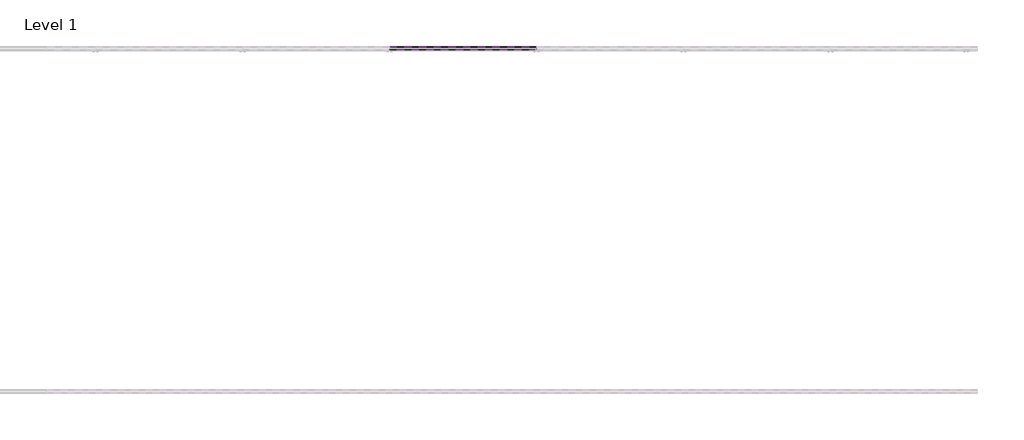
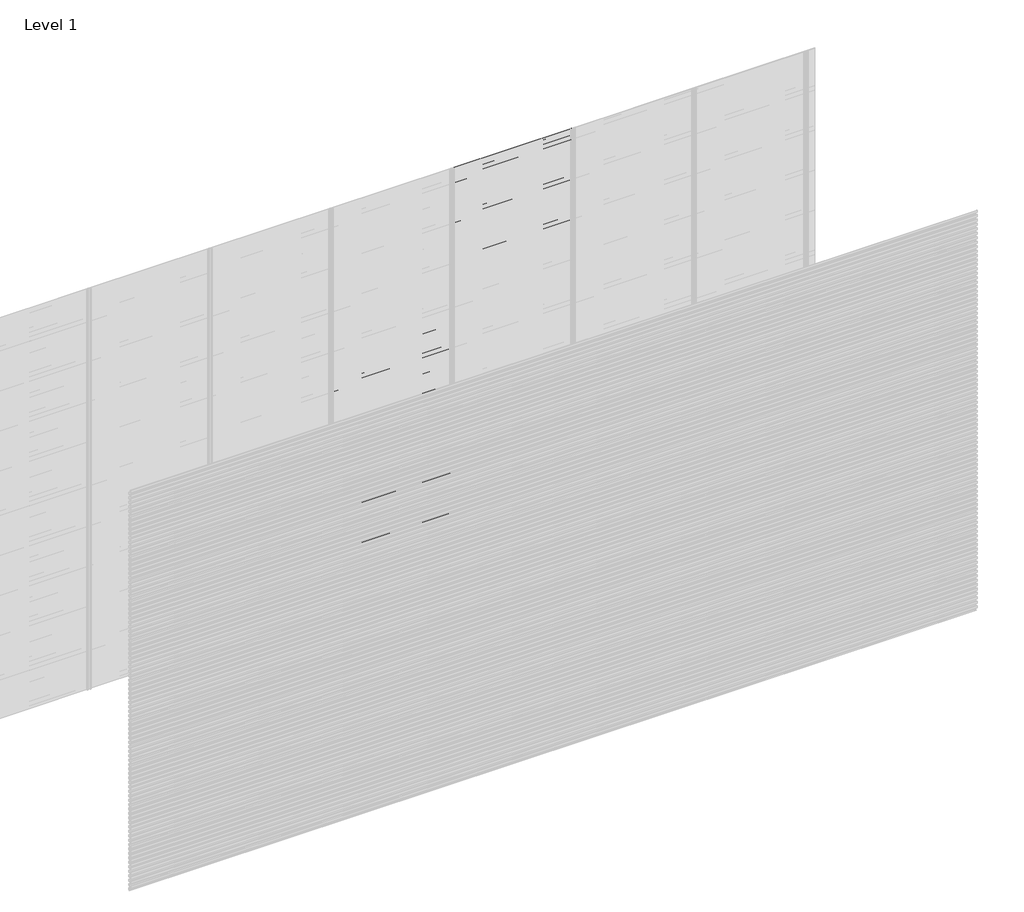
# One storey, part 93 of 96: 82 proxies.
"""IFC4 building model written with IfcOpenShell, lengths in millimetres."""

from ifc_helpers import new_model, si_unit, frame, origin, place, context, project, spatial, polyline, outline, extrude, element, save

model = new_model("IFC4")

# Units and contexts
model_context = context("Model", 3, world=origin())
ifc_project = project(units=[si_unit("LENGTHUNIT", "METRE", prefix="MILLI")], contexts=[model_context])

# Site, building, storey
site = spatial("IfcSite", under=ifc_project)
building = spatial("IfcBuilding", under=site)
storey = spatial("IfcBuildingStorey", under=building, Name="Level 1", Elevation=0.0)

# Proxies
placement = place(None, origin())
element("IfcBuildingElementProxy", 1, Name="Wall Sweeps", at=placement, inside=storey, context=model_context, shape_type="SweptSolid", body=[
    extrude(outline(polyline([(22.4, 1839.5655033), (22.4, 1825.2779188), (17.5885035, 1822.5), (17.5885035, 1823.7701706), (21.15, 1825.8264016), (21.15, 1838.8437382), (2.0, 1849.9000799), (2.0, 1864.8), (3.25, 1864.8), (3.25, 1850.6217609), (22.4, 1839.5655033)])), frame((2571.4285714, 0.0, 0.0), z_axis=(1.0, 0.0, 0.0), x_axis=(0.0, 1.0, 0.0)), (0.0, 0.0, 1.0), 857.1428571),
])
element("IfcBuildingElementProxy", 2, Name="Wall Sweeps", at=placement, inside=storey, context=model_context, shape_type="SweptSolid", body=[
    extrude(outline(polyline([(22.4, 1806.2655033), (22.4, 1791.9779188), (17.5885035, 1789.2), (17.5885035, 1790.4701706), (21.15, 1792.5264016), (21.15, 1805.5437382), (2.0, 1816.6000799), (2.0, 1831.5), (3.25, 1831.5), (3.25, 1817.3217609), (22.4, 1806.2655033)])), frame((2571.4285714, 0.0, 0.0), z_axis=(1.0, 0.0, 0.0), x_axis=(0.0, 1.0, 0.0)), (0.0, 0.0, 1.0), 857.1428571),
])
element("IfcBuildingElementProxy", 3, Name="Wall Sweeps", at=placement, inside=storey, context=model_context, shape_type="SweptSolid", body=[
    extrude(outline(polyline([(22.4, 1772.9655033), (22.4, 1758.6779188), (17.5885035, 1755.9), (17.5885035, 1757.1701706), (21.15, 1759.2264016), (21.15, 1772.2437382), (2.0, 1783.3000799), (2.0, 1798.2), (3.25, 1798.2), (3.25, 1784.0217609), (22.4, 1772.9655033)])), frame((2571.4285714, 0.0, 0.0), z_axis=(1.0, 0.0, 0.0), x_axis=(0.0, 1.0, 0.0)), (0.0, 0.0, 1.0), 857.1428571),
])
element("IfcBuildingElementProxy", 4, Name="Wall Sweeps", at=placement, inside=storey, context=model_context, shape_type="SweptSolid", body=[
    extrude(outline(polyline([(22.4, 1739.6655033), (22.4, 1725.3779188), (17.5885035, 1722.6), (17.5885035, 1723.8701706), (21.15, 1725.9264016), (21.15, 1738.9437382), (2.0, 1750.0000799), (2.0, 1764.9), (3.25, 1764.9), (3.25, 1750.7217609), (22.4, 1739.6655033)])), frame((2571.4285714, 0.0, 0.0), z_axis=(1.0, 0.0, 0.0), x_axis=(0.0, 1.0, 0.0)), (0.0, 0.0, 1.0), 857.1428571),
])
element("IfcBuildingElementProxy", 5, Name="Wall Sweeps", at=placement, inside=storey, context=model_context, shape_type="SweptSolid", body=[
    extrude(outline(polyline([(22.4, 1706.3655033), (22.4, 1692.0779188), (17.5885035, 1689.3), (17.5885035, 1690.5701706), (21.15, 1692.6264016), (21.15, 1705.6437382), (2.0, 1716.7000799), (2.0, 1731.6), (3.25, 1731.6), (3.25, 1717.4217609), (22.4, 1706.3655033)])), frame((2571.4285714, 0.0, 0.0), z_axis=(1.0, 0.0, 0.0), x_axis=(0.0, 1.0, 0.0)), (0.0, 0.0, 1.0), 857.1428571),
])
element("IfcBuildingElementProxy", 6, Name="Wall Sweeps", at=placement, inside=storey, context=model_context, shape_type="SweptSolid", body=[
    extrude(outline(polyline([(22.4, 1673.0655033), (22.4, 1658.7779188), (17.5885035, 1656.0), (17.5885035, 1657.2701706), (21.15, 1659.3264016), (21.15, 1672.3437382), (2.0, 1683.4000799), (2.0, 1698.3), (3.25, 1698.3), (3.25, 1684.1217609), (22.4, 1673.0655033)])), frame((2571.4285714, 0.0, 0.0), z_axis=(1.0, 0.0, 0.0), x_axis=(0.0, 1.0, 0.0)), (0.0, 0.0, 1.0), 857.1428571),
])
element("IfcBuildingElementProxy", 7, Name="Wall Sweeps", at=placement, inside=storey, context=model_context, shape_type="SweptSolid", body=[
    extrude(outline(polyline([(22.4, 1639.7655033), (22.4, 1625.4779188), (17.5885035, 1622.7), (17.5885035, 1623.9701706), (21.15, 1626.0264016), (21.15, 1639.0437382), (2.0, 1650.1000799), (2.0, 1665.0), (3.25, 1665.0), (3.25, 1650.8217609), (22.4, 1639.7655033)])), frame((2571.4285714, 0.0, 0.0), z_axis=(1.0, 0.0, 0.0), x_axis=(0.0, 1.0, 0.0)), (0.0, 0.0, 1.0), 857.1428571),
])
element("IfcBuildingElementProxy", 8, Name="Wall Sweeps", at=placement, inside=storey, context=model_context, shape_type="SweptSolid", body=[
    extrude(outline(polyline([(22.4, 1606.4655033), (22.4, 1592.1779188), (17.5885035, 1589.4), (17.5885035, 1590.6701706), (21.15, 1592.7264016), (21.15, 1605.7437382), (2.0, 1616.8000799), (2.0, 1631.7), (3.25, 1631.7), (3.25, 1617.5217609), (22.4, 1606.4655033)])), frame((2571.4285714, 0.0, 0.0), z_axis=(1.0, 0.0, 0.0), x_axis=(0.0, 1.0, 0.0)), (0.0, 0.0, 1.0), 857.1428571),
])
element("IfcBuildingElementProxy", 9, Name="Wall Sweeps", at=placement, inside=storey, context=model_context, shape_type="SweptSolid", body=[
    extrude(outline(polyline([(22.4, 1573.1655033), (22.4, 1558.8779188), (17.5885035, 1556.1), (17.5885035, 1557.3701706), (21.15, 1559.4264016), (21.15, 1572.4437382), (2.0, 1583.5000799), (2.0, 1598.4), (3.25, 1598.4), (3.25, 1584.2217609), (22.4, 1573.1655033)])), frame((2571.4285714, 0.0, 0.0), z_axis=(1.0, 0.0, 0.0), x_axis=(0.0, 1.0, 0.0)), (0.0, 0.0, 1.0), 857.1428571),
])
element("IfcBuildingElementProxy", 10, Name="Wall Sweeps", at=placement, inside=storey, context=model_context, shape_type="SweptSolid", body=[
    extrude(outline(polyline([(22.4, 1539.8655033), (22.4, 1525.5779188), (17.5885035, 1522.8), (17.5885035, 1524.0701706), (21.15, 1526.1264016), (21.15, 1539.1437382), (2.0, 1550.2000799), (2.0, 1565.1), (3.25, 1565.1), (3.25, 1550.9217609), (22.4, 1539.8655033)])), frame((2571.4285714, 0.0, 0.0), z_axis=(1.0, 0.0, 0.0), x_axis=(0.0, 1.0, 0.0)), (0.0, 0.0, 1.0), 857.1428571),
])
element("IfcBuildingElementProxy", 11, Name="Wall Sweeps", at=placement, inside=storey, context=model_context, shape_type="SweptSolid", body=[
    extrude(outline(polyline([(22.4, 1506.5655033), (22.4, 1492.2779188), (17.5885035, 1489.5), (17.5885035, 1490.7701706), (21.15, 1492.8264016), (21.15, 1505.8437382), (2.0, 1516.9000799), (2.0, 1531.8), (3.25, 1531.8), (3.25, 1517.6217609), (22.4, 1506.5655033)])), frame((2571.4285714, 0.0, 0.0), z_axis=(1.0, 0.0, 0.0), x_axis=(0.0, 1.0, 0.0)), (0.0, 0.0, 1.0), 857.1428571),
])
element("IfcBuildingElementProxy", 12, Name="Wall Sweeps", at=placement, inside=storey, context=model_context, shape_type="SweptSolid", body=[
    extrude(outline(polyline([(22.4, 1473.2655033), (22.4, 1458.9779188), (17.5885035, 1456.2), (17.5885035, 1457.4701706), (21.15, 1459.5264016), (21.15, 1472.5437382), (2.0, 1483.6000799), (2.0, 1498.5), (3.25, 1498.5), (3.25, 1484.3217609), (22.4, 1473.2655033)])), frame((2571.4285714, 0.0, 0.0), z_axis=(1.0, 0.0, 0.0), x_axis=(0.0, 1.0, 0.0)), (0.0, 0.0, 1.0), 857.1428571),
])
element("IfcBuildingElementProxy", 13, Name="Wall Sweeps", at=placement, inside=storey, context=model_context, shape_type="SweptSolid", body=[
    extrude(outline(polyline([(22.4, 1439.9655033), (22.4, 1425.6779188), (17.5885035, 1422.9), (17.5885035, 1424.1701706), (21.15, 1426.2264016), (21.15, 1439.2437382), (2.0, 1450.3000799), (2.0, 1465.2), (3.25, 1465.2), (3.25, 1451.0217609), (22.4, 1439.9655033)])), frame((2571.4285714, 0.0, 0.0), z_axis=(1.0, 0.0, 0.0), x_axis=(0.0, 1.0, 0.0)), (0.0, 0.0, 1.0), 857.1428571),
])
element("IfcBuildingElementProxy", 14, Name="Wall Sweeps", at=placement, inside=storey, context=model_context, shape_type="SweptSolid", body=[
    extrude(outline(polyline([(22.4, 1406.6655033), (22.4, 1392.3779188), (17.5885035, 1389.6), (17.5885035, 1390.8701706), (21.15, 1392.9264016), (21.15, 1405.9437382), (2.0, 1417.0000799), (2.0, 1431.9), (3.25, 1431.9), (3.25, 1417.7217609), (22.4, 1406.6655033)])), frame((2571.4285714, 0.0, 0.0), z_axis=(1.0, 0.0, 0.0), x_axis=(0.0, 1.0, 0.0)), (0.0, 0.0, 1.0), 857.1428571),
])
element("IfcBuildingElementProxy", 15, Name="Wall Sweeps", at=placement, inside=storey, context=model_context, shape_type="SweptSolid", body=[
    extrude(outline(polyline([(22.4, 1373.3655033), (22.4, 1359.0779188), (17.5885035, 1356.3), (17.5885035, 1357.5701706), (21.15, 1359.6264016), (21.15, 1372.6437382), (2.0, 1383.7000799), (2.0, 1398.6), (3.25, 1398.6), (3.25, 1384.4217609), (22.4, 1373.3655033)])), frame((2571.4285714, 0.0, 0.0), z_axis=(1.0, 0.0, 0.0), x_axis=(0.0, 1.0, 0.0)), (0.0, 0.0, 1.0), 857.1428571),
])
element("IfcBuildingElementProxy", 16, Name="Wall Sweeps", at=placement, inside=storey, context=model_context, shape_type="SweptSolid", body=[
    extrude(outline(polyline([(22.4, 1340.0655033), (22.4, 1325.7779188), (17.5885035, 1323.0), (17.5885035, 1324.2701706), (21.15, 1326.3264016), (21.15, 1339.3437382), (2.0, 1350.4000799), (2.0, 1365.3), (3.25, 1365.3), (3.25, 1351.1217609), (22.4, 1340.0655033)])), frame((2571.4285714, 0.0, 0.0), z_axis=(1.0, 0.0, 0.0), x_axis=(0.0, 1.0, 0.0)), (0.0, 0.0, 1.0), 857.1428571),
])
element("IfcBuildingElementProxy", 17, Name="Wall Sweeps", at=placement, inside=storey, context=model_context, shape_type="SweptSolid", body=[
    extrude(outline(polyline([(22.4, 1306.7655033), (22.4, 1292.4779188), (17.5885035, 1289.7), (17.5885035, 1290.9701706), (21.15, 1293.0264016), (21.15, 1306.0437382), (2.0, 1317.1000799), (2.0, 1332.0), (3.25, 1332.0), (3.25, 1317.8217609), (22.4, 1306.7655033)])), frame((2571.4285714, 0.0, 0.0), z_axis=(1.0, 0.0, 0.0), x_axis=(0.0, 1.0, 0.0)), (0.0, 0.0, 1.0), 857.1428571),
])
element("IfcBuildingElementProxy", 18, Name="Wall Sweeps", at=placement, inside=storey, context=model_context, shape_type="SweptSolid", body=[
    extrude(outline(polyline([(22.4, 1273.4655033), (22.4, 1259.1779188), (17.5885035, 1256.4), (17.5885035, 1257.6701706), (21.15, 1259.7264016), (21.15, 1272.7437382), (2.0, 1283.8000799), (2.0, 1298.7), (3.25, 1298.7), (3.25, 1284.5217609), (22.4, 1273.4655033)])), frame((2571.4285714, 0.0, 0.0), z_axis=(1.0, 0.0, 0.0), x_axis=(0.0, 1.0, 0.0)), (0.0, 0.0, 1.0), 857.1428571),
])
element("IfcBuildingElementProxy", 19, Name="Wall Sweeps", at=placement, inside=storey, context=model_context, shape_type="SweptSolid", body=[
    extrude(outline(polyline([(22.4, 1240.1655033), (22.4, 1225.8779188), (17.5885035, 1223.1), (17.5885035, 1224.3701706), (21.15, 1226.4264016), (21.15, 1239.4437382), (2.0, 1250.5000799), (2.0, 1265.4), (3.25, 1265.4), (3.25, 1251.2217609), (22.4, 1240.1655033)])), frame((2571.4285714, 0.0, 0.0), z_axis=(1.0, 0.0, 0.0), x_axis=(0.0, 1.0, 0.0)), (0.0, 0.0, 1.0), 857.1428571),
])
element("IfcBuildingElementProxy", 20, Name="Wall Sweeps", at=placement, inside=storey, context=model_context, shape_type="SweptSolid", body=[
    extrude(outline(polyline([(22.4, 1206.8655033), (22.4, 1192.5779188), (17.5885035, 1189.8), (17.5885035, 1191.0701706), (21.15, 1193.1264016), (21.15, 1206.1437382), (2.0, 1217.2000799), (2.0, 1232.1), (3.25, 1232.1), (3.25, 1217.9217609), (22.4, 1206.8655033)])), frame((2571.4285714, 0.0, 0.0), z_axis=(1.0, 0.0, 0.0), x_axis=(0.0, 1.0, 0.0)), (0.0, 0.0, 1.0), 857.1428571),
])
element("IfcBuildingElementProxy", 21, Name="Wall Sweeps", at=placement, inside=storey, context=model_context, shape_type="SweptSolid", body=[
    extrude(outline(polyline([(22.4, 1173.5655033), (22.4, 1159.2779188), (17.5885035, 1156.5), (17.5885035, 1157.7701706), (21.15, 1159.8264016), (21.15, 1172.8437382), (2.0, 1183.9000799), (2.0, 1198.8), (3.25, 1198.8), (3.25, 1184.6217609), (22.4, 1173.5655033)])), frame((2571.4285714, 0.0, 0.0), z_axis=(1.0, 0.0, 0.0), x_axis=(0.0, 1.0, 0.0)), (0.0, 0.0, 1.0), 857.1428571),
])
element("IfcBuildingElementProxy", 22, Name="Wall Sweeps", at=placement, inside=storey, context=model_context, shape_type="SweptSolid", body=[
    extrude(outline(polyline([(22.4, 1140.2655033), (22.4, 1125.9779188), (17.5885035, 1123.2), (17.5885035, 1124.4701706), (21.15, 1126.5264016), (21.15, 1139.5437382), (2.0, 1150.6000799), (2.0, 1165.5), (3.25, 1165.5), (3.25, 1151.3217609), (22.4, 1140.2655033)])), frame((2571.4285714, 0.0, 0.0), z_axis=(1.0, 0.0, 0.0), x_axis=(0.0, 1.0, 0.0)), (0.0, 0.0, 1.0), 857.1428571),
])
element("IfcBuildingElementProxy", 23, Name="Wall Sweeps", at=placement, inside=storey, context=model_context, shape_type="SweptSolid", body=[
    extrude(outline(polyline([(22.4, 1106.9655033), (22.4, 1092.6779188), (17.5885035, 1089.9), (17.5885035, 1091.1701706), (21.15, 1093.2264016), (21.15, 1106.2437382), (2.0, 1117.3000799), (2.0, 1132.2), (3.25, 1132.2), (3.25, 1118.0217609), (22.4, 1106.9655033)])), frame((2571.4285714, 0.0, 0.0), z_axis=(1.0, 0.0, 0.0), x_axis=(0.0, 1.0, 0.0)), (0.0, 0.0, 1.0), 857.1428571),
])
element("IfcBuildingElementProxy", 24, Name="Wall Sweeps", at=placement, inside=storey, context=model_context, shape_type="SweptSolid", body=[
    extrude(outline(polyline([(22.4, 1073.6655033), (22.4, 1059.3779188), (17.5885035, 1056.6), (17.5885035, 1057.8701706), (21.15, 1059.9264016), (21.15, 1072.9437382), (2.0, 1084.0000799), (2.0, 1098.9), (3.25, 1098.9), (3.25, 1084.7217609), (22.4, 1073.6655033)])), frame((2571.4285714, 0.0, 0.0), z_axis=(1.0, 0.0, 0.0), x_axis=(0.0, 1.0, 0.0)), (0.0, 0.0, 1.0), 857.1428571),
])
element("IfcBuildingElementProxy", 25, Name="Wall Sweeps", at=placement, inside=storey, context=model_context, shape_type="SweptSolid", body=[
    extrude(outline(polyline([(22.4, 1040.3655033), (22.4, 1026.0779188), (17.5885035, 1023.3), (17.5885035, 1024.5701706), (21.15, 1026.6264016), (21.15, 1039.6437382), (2.0, 1050.7000799), (2.0, 1065.6), (3.25, 1065.6), (3.25, 1051.4217609), (22.4, 1040.3655033)])), frame((2571.4285714, 0.0, 0.0), z_axis=(1.0, 0.0, 0.0), x_axis=(0.0, 1.0, 0.0)), (0.0, 0.0, 1.0), 857.1428571),
])
element("IfcBuildingElementProxy", 26, Name="Wall Sweeps", at=placement, inside=storey, context=model_context, shape_type="SweptSolid", body=[
    extrude(outline(polyline([(22.4, 1007.0655033), (22.4, 992.7779188), (17.5885035, 990.0), (17.5885035, 991.2701706), (21.15, 993.3264016), (21.15, 1006.3437382), (2.0, 1017.4000799), (2.0, 1032.3), (3.25, 1032.3), (3.25, 1018.1217609), (22.4, 1007.0655033)])), frame((2571.4285714, 0.0, 0.0), z_axis=(1.0, 0.0, 0.0), x_axis=(0.0, 1.0, 0.0)), (0.0, 0.0, 1.0), 857.1428571),
])
element("IfcBuildingElementProxy", 27, Name="Wall Sweeps", at=placement, inside=storey, context=model_context, shape_type="SweptSolid", body=[
    extrude(outline(polyline([(22.4, 973.7655033), (22.4, 959.4779188), (17.5885035, 956.7), (17.5885035, 957.9701706), (21.15, 960.0264016), (21.15, 973.0437382), (2.0, 984.1000799), (2.0, 999.0), (3.25, 999.0), (3.25, 984.8217609), (22.4, 973.7655033)])), frame((2571.4285714, 0.0, 0.0), z_axis=(1.0, 0.0, 0.0), x_axis=(0.0, 1.0, 0.0)), (0.0, 0.0, 1.0), 857.1428571),
])
element("IfcBuildingElementProxy", 28, Name="Wall Sweeps", at=placement, inside=storey, context=model_context, shape_type="SweptSolid", body=[
    extrude(outline(polyline([(22.4, 940.4655033), (22.4, 926.1779188), (17.5885035, 923.4), (17.5885035, 924.6701706), (21.15, 926.7264016), (21.15, 939.7437382), (2.0, 950.8000799), (2.0, 965.7), (3.25, 965.7), (3.25, 951.5217609), (22.4, 940.4655033)])), frame((2571.4285714, 0.0, 0.0), z_axis=(1.0, 0.0, 0.0), x_axis=(0.0, 1.0, 0.0)), (0.0, 0.0, 1.0), 857.1428571),
])
element("IfcBuildingElementProxy", 29, Name="Wall Sweeps", at=placement, inside=storey, context=model_context, shape_type="SweptSolid", body=[
    extrude(outline(polyline([(22.4, 907.1655033), (22.4, 892.8779188), (17.5885035, 890.1), (17.5885035, 891.3701706), (21.15, 893.4264016), (21.15, 906.4437382), (2.0, 917.5000799), (2.0, 932.4), (3.25, 932.4), (3.25, 918.2217609), (22.4, 907.1655033)])), frame((2571.4285714, 0.0, 0.0), z_axis=(1.0, 0.0, 0.0), x_axis=(0.0, 1.0, 0.0)), (0.0, 0.0, 1.0), 857.1428571),
])
element("IfcBuildingElementProxy", 30, Name="Wall Sweeps", at=placement, inside=storey, context=model_context, shape_type="SweptSolid", body=[
    extrude(outline(polyline([(22.4, 873.8655033), (22.4, 859.5779188), (17.5885035, 856.8), (17.5885035, 858.0701706), (21.15, 860.1264016), (21.15, 873.1437382), (2.0, 884.2000799), (2.0, 899.1), (3.25, 899.1), (3.25, 884.9217609), (22.4, 873.8655033)])), frame((2571.4285714, 0.0, 0.0), z_axis=(1.0, 0.0, 0.0), x_axis=(0.0, 1.0, 0.0)), (0.0, 0.0, 1.0), 857.1428571),
])
element("IfcBuildingElementProxy", 31, Name="Wall Sweeps", at=placement, inside=storey, context=model_context, shape_type="SweptSolid", body=[
    extrude(outline(polyline([(22.4, 840.5655033), (22.4, 826.2779188), (17.5885035, 823.5), (17.5885035, 824.7701706), (21.15, 826.8264016), (21.15, 839.8437382), (2.0, 850.9000799), (2.0, 865.8), (3.25, 865.8), (3.25, 851.6217609), (22.4, 840.5655033)])), frame((2571.4285714, 0.0, 0.0), z_axis=(1.0, 0.0, 0.0), x_axis=(0.0, 1.0, 0.0)), (0.0, 0.0, 1.0), 857.1428571),
])
element("IfcBuildingElementProxy", 32, Name="Wall Sweeps", at=placement, inside=storey, context=model_context, shape_type="SweptSolid", body=[
    extrude(outline(polyline([(22.4, 807.2655033), (22.4, 792.9779188), (17.5885035, 790.2), (17.5885035, 791.4701706), (21.15, 793.5264016), (21.15, 806.5437382), (2.0, 817.6000799), (2.0, 832.5), (3.25, 832.5), (3.25, 818.3217609), (22.4, 807.2655033)])), frame((2571.4285714, 0.0, 0.0), z_axis=(1.0, 0.0, 0.0), x_axis=(0.0, 1.0, 0.0)), (0.0, 0.0, 1.0), 857.1428571),
])
element("IfcBuildingElementProxy", 33, Name="Wall Sweeps", at=placement, inside=storey, context=model_context, shape_type="SweptSolid", body=[
    extrude(outline(polyline([(22.4, 773.9655033), (22.4, 759.6779188), (17.5885035, 756.9), (17.5885035, 758.1701706), (21.15, 760.2264016), (21.15, 773.2437382), (2.0, 784.3000799), (2.0, 799.2), (3.25, 799.2), (3.25, 785.0217609), (22.4, 773.9655033)])), frame((2571.4285714, 0.0, 0.0), z_axis=(1.0, 0.0, 0.0), x_axis=(0.0, 1.0, 0.0)), (0.0, 0.0, 1.0), 857.1428571),
])
element("IfcBuildingElementProxy", 34, Name="Wall Sweeps", at=placement, inside=storey, context=model_context, shape_type="SweptSolid", body=[
    extrude(outline(polyline([(22.4, 740.6655033), (22.4, 726.3779188), (17.5885035, 723.6), (17.5885035, 724.8701706), (21.15, 726.9264016), (21.15, 739.9437382), (2.0, 751.0000799), (2.0, 765.9), (3.25, 765.9), (3.25, 751.7217609), (22.4, 740.6655033)])), frame((2571.4285714, 0.0, 0.0), z_axis=(1.0, 0.0, 0.0), x_axis=(0.0, 1.0, 0.0)), (0.0, 0.0, 1.0), 857.1428571),
])
element("IfcBuildingElementProxy", 35, Name="Wall Sweeps", at=placement, inside=storey, context=model_context, shape_type="SweptSolid", body=[
    extrude(outline(polyline([(22.4, 707.3655033), (22.4, 693.0779188), (17.5885035, 690.3), (17.5885035, 691.5701706), (21.15, 693.6264016), (21.15, 706.6437382), (2.0, 717.7000799), (2.0, 732.6), (3.25, 732.6), (3.25, 718.4217609), (22.4, 707.3655033)])), frame((2571.4285714, 0.0, 0.0), z_axis=(1.0, 0.0, 0.0), x_axis=(0.0, 1.0, 0.0)), (0.0, 0.0, 1.0), 857.1428571),
])
element("IfcBuildingElementProxy", 36, Name="Wall Sweeps", at=placement, inside=storey, context=model_context, shape_type="SweptSolid", body=[
    extrude(outline(polyline([(22.4, 674.0655033), (22.4, 659.7779188), (17.5885035, 657.0), (17.5885035, 658.2701706), (21.15, 660.3264016), (21.15, 673.3437382), (2.0, 684.4000799), (2.0, 699.3), (3.25, 699.3), (3.25, 685.1217609), (22.4, 674.0655033)])), frame((2571.4285714, 0.0, 0.0), z_axis=(1.0, 0.0, 0.0), x_axis=(0.0, 1.0, 0.0)), (0.0, 0.0, 1.0), 857.1428571),
])
element("IfcBuildingElementProxy", 37, Name="Wall Sweeps", at=placement, inside=storey, context=model_context, shape_type="SweptSolid", body=[
    extrude(outline(polyline([(22.4, 640.7655033), (22.4, 626.4779188), (17.5885035, 623.7), (17.5885035, 624.9701706), (21.15, 627.0264016), (21.15, 640.0437382), (2.0, 651.1000799), (2.0, 666.0), (3.25, 666.0), (3.25, 651.8217609), (22.4, 640.7655033)])), frame((2571.4285714, 0.0, 0.0), z_axis=(1.0, 0.0, 0.0), x_axis=(0.0, 1.0, 0.0)), (0.0, 0.0, 1.0), 857.1428571),
])
element("IfcBuildingElementProxy", 38, Name="Wall Sweeps", at=placement, inside=storey, context=model_context, shape_type="SweptSolid", body=[
    extrude(outline(polyline([(22.4, 607.4655033), (22.4, 593.1779188), (17.5885035, 590.4), (17.5885035, 591.6701706), (21.15, 593.7264016), (21.15, 606.7437382), (2.0, 617.8000799), (2.0, 632.7), (3.25, 632.7), (3.25, 618.5217609), (22.4, 607.4655033)])), frame((2571.4285714, 0.0, 0.0), z_axis=(1.0, 0.0, 0.0), x_axis=(0.0, 1.0, 0.0)), (0.0, 0.0, 1.0), 857.1428571),
])
element("IfcBuildingElementProxy", 39, Name="Wall Sweeps", at=placement, inside=storey, context=model_context, shape_type="SweptSolid", body=[
    extrude(outline(polyline([(22.4, 574.1655033), (22.4, 559.8779188), (17.5885035, 557.1), (17.5885035, 558.3701706), (21.15, 560.4264016), (21.15, 573.4437382), (2.0, 584.5000799), (2.0, 599.4), (3.25, 599.4), (3.25, 585.2217609), (22.4, 574.1655033)])), frame((2571.4285714, 0.0, 0.0), z_axis=(1.0, 0.0, 0.0), x_axis=(0.0, 1.0, 0.0)), (0.0, 0.0, 1.0), 857.1428571),
])
element("IfcBuildingElementProxy", 40, Name="Wall Sweeps", at=placement, inside=storey, context=model_context, shape_type="SweptSolid", body=[
    extrude(outline(polyline([(22.4, 540.8655033), (22.4, 526.5779188), (17.5885035, 523.8), (17.5885035, 525.0701706), (21.15, 527.1264016), (21.15, 540.1437382), (2.0, 551.2000799), (2.0, 566.1), (3.25, 566.1), (3.25, 551.9217609), (22.4, 540.8655033)])), frame((2571.4285714, 0.0, 0.0), z_axis=(1.0, 0.0, 0.0), x_axis=(0.0, 1.0, 0.0)), (0.0, 0.0, 1.0), 857.1428571),
])
element("IfcBuildingElementProxy", 41, Name="Wall Sweeps", at=placement, inside=storey, context=model_context, shape_type="SweptSolid", body=[
    extrude(outline(polyline([(22.4, 507.5655033), (22.4, 493.2779188), (17.5885035, 490.5), (17.5885035, 491.7701706), (21.15, 493.8264016), (21.15, 506.8437382), (2.0, 517.9000799), (2.0, 532.8), (3.25, 532.8), (3.25, 518.6217609), (22.4, 507.5655033)])), frame((2571.4285714, 0.0, 0.0), z_axis=(1.0, 0.0, 0.0), x_axis=(0.0, 1.0, 0.0)), (0.0, 0.0, 1.0), 857.1428571),
])
element("IfcBuildingElementProxy", 42, Name="Wall Sweeps", at=placement, inside=storey, context=model_context, shape_type="SweptSolid", body=[
    extrude(outline(polyline([(22.4, 474.2655033), (22.4, 459.9779188), (17.5885035, 457.2), (17.5885035, 458.4701706), (21.15, 460.5264016), (21.15, 473.5437382), (2.0, 484.6000799), (2.0, 499.5), (3.25, 499.5), (3.25, 485.3217609), (22.4, 474.2655033)])), frame((2571.4285714, 0.0, 0.0), z_axis=(1.0, 0.0, 0.0), x_axis=(0.0, 1.0, 0.0)), (0.0, 0.0, 1.0), 857.1428571),
])
element("IfcBuildingElementProxy", 43, Name="Wall Sweeps", at=placement, inside=storey, context=model_context, shape_type="SweptSolid", body=[
    extrude(outline(polyline([(22.4, 440.9655033), (22.4, 426.6779188), (17.5885035, 423.9), (17.5885035, 425.1701706), (21.15, 427.2264016), (21.15, 440.2437382), (2.0, 451.3000799), (2.0, 466.2), (3.25, 466.2), (3.25, 452.0217609), (22.4, 440.9655033)])), frame((2571.4285714, 0.0, 0.0), z_axis=(1.0, 0.0, 0.0), x_axis=(0.0, 1.0, 0.0)), (0.0, 0.0, 1.0), 857.1428571),
])
element("IfcBuildingElementProxy", 44, Name="Wall Sweeps", at=placement, inside=storey, context=model_context, shape_type="SweptSolid", body=[
    extrude(outline(polyline([(22.4, 407.6655033), (22.4, 393.3779188), (17.5885035, 390.6), (17.5885035, 391.8701706), (21.15, 393.9264016), (21.15, 406.9437382), (2.0, 418.0000799), (2.0, 432.9), (3.25, 432.9), (3.25, 418.7217609), (22.4, 407.6655033)])), frame((2571.4285714, 0.0, 0.0), z_axis=(1.0, 0.0, 0.0), x_axis=(0.0, 1.0, 0.0)), (0.0, 0.0, 1.0), 857.1428571),
])
element("IfcBuildingElementProxy", 45, Name="Wall Sweeps", at=placement, inside=storey, context=model_context, shape_type="SweptSolid", body=[
    extrude(outline(polyline([(22.4, 374.3655033), (22.4, 360.0779188), (17.5885035, 357.3), (17.5885035, 358.5701706), (21.15, 360.6264016), (21.15, 373.6437382), (2.0, 384.7000799), (2.0, 399.6), (3.25, 399.6), (3.25, 385.4217609), (22.4, 374.3655033)])), frame((2571.4285714, 0.0, 0.0), z_axis=(1.0, 0.0, 0.0), x_axis=(0.0, 1.0, 0.0)), (0.0, 0.0, 1.0), 857.1428571),
])
element("IfcBuildingElementProxy", 46, Name="Wall Sweeps", at=placement, inside=storey, context=model_context, shape_type="SweptSolid", body=[
    extrude(outline(polyline([(22.4, 341.0655033), (22.4, 326.7779188), (17.5885035, 324.0), (17.5885035, 325.2701706), (21.15, 327.3264016), (21.15, 340.3437382), (2.0, 351.4000799), (2.0, 366.3), (3.25, 366.3), (3.25, 352.1217609), (22.4, 341.0655033)])), frame((2571.4285714, 0.0, 0.0), z_axis=(1.0, 0.0, 0.0), x_axis=(0.0, 1.0, 0.0)), (0.0, 0.0, 1.0), 857.1428571),
])
element("IfcBuildingElementProxy", 47, Name="Wall Sweeps", at=placement, inside=storey, context=model_context, shape_type="SweptSolid", body=[
    extrude(outline(polyline([(22.4, 307.7655033), (22.4, 293.4779188), (17.5885035, 290.7), (17.5885035, 291.9701706), (21.15, 294.0264016), (21.15, 307.0437382), (2.0, 318.1000799), (2.0, 333.0), (3.25, 333.0), (3.25, 318.8217609), (22.4, 307.7655033)])), frame((2571.4285714, 0.0, 0.0), z_axis=(1.0, 0.0, 0.0), x_axis=(0.0, 1.0, 0.0)), (0.0, 0.0, 1.0), 857.1428571),
])
element("IfcBuildingElementProxy", 48, Name="Wall Sweeps", at=placement, inside=storey, context=model_context, shape_type="SweptSolid", body=[
    extrude(outline(polyline([(22.4, 274.4655033), (22.4, 260.1779188), (17.5885035, 257.4), (17.5885035, 258.6701706), (21.15, 260.7264016), (21.15, 273.7437382), (2.0, 284.8000799), (2.0, 299.7), (3.25, 299.7), (3.25, 285.5217609), (22.4, 274.4655033)])), frame((2571.4285714, 0.0, 0.0), z_axis=(1.0, 0.0, 0.0), x_axis=(0.0, 1.0, 0.0)), (0.0, 0.0, 1.0), 857.1428571),
])
element("IfcBuildingElementProxy", 49, Name="Wall Sweeps", at=placement, inside=storey, context=model_context, shape_type="SweptSolid", body=[
    extrude(outline(polyline([(22.4, 241.1655033), (22.4, 226.8779188), (17.5885035, 224.1), (17.5885035, 225.3701706), (21.15, 227.4264016), (21.15, 240.4437382), (2.0, 251.5000799), (2.0, 266.4), (3.25, 266.4), (3.25, 252.2217609), (22.4, 241.1655033)])), frame((2571.4285714, 0.0, 0.0), z_axis=(1.0, 0.0, 0.0), x_axis=(0.0, 1.0, 0.0)), (0.0, 0.0, 1.0), 857.1428571),
])
element("IfcBuildingElementProxy", 50, Name="Wall Sweeps", at=placement, inside=storey, context=model_context, shape_type="SweptSolid", body=[
    extrude(outline(polyline([(22.4, 207.8655033), (22.4, 193.5779188), (17.5885035, 190.8), (17.5885035, 192.0701706), (21.15, 194.1264016), (21.15, 207.1437382), (2.0, 218.2000799), (2.0, 233.1), (3.25, 233.1), (3.25, 218.9217609), (22.4, 207.8655033)])), frame((2571.4285714, 0.0, 0.0), z_axis=(1.0, 0.0, 0.0), x_axis=(0.0, 1.0, 0.0)), (0.0, 0.0, 1.0), 857.1428571),
])
element("IfcBuildingElementProxy", 51, Name="Wall Sweeps", at=placement, inside=storey, context=model_context, shape_type="SweptSolid", body=[
    extrude(outline(polyline([(22.4, 174.5655033), (22.4, 160.2779188), (17.5885035, 157.5), (17.5885035, 158.7701706), (21.15, 160.8264016), (21.15, 173.8437382), (2.0, 184.9000799), (2.0, 199.8), (3.25, 199.8), (3.25, 185.6217609), (22.4, 174.5655033)])), frame((2571.4285714, 0.0, 0.0), z_axis=(1.0, 0.0, 0.0), x_axis=(0.0, 1.0, 0.0)), (0.0, 0.0, 1.0), 857.1428571),
])
element("IfcBuildingElementProxy", 52, Name="Wall Sweeps", at=placement, inside=storey, context=model_context, shape_type="SweptSolid", body=[
    extrude(outline(polyline([(22.4, 141.2655033), (22.4, 126.9779188), (17.5885035, 124.2), (17.5885035, 125.4701706), (21.15, 127.5264016), (21.15, 140.5437382), (2.0, 151.6000799), (2.0, 166.5), (3.25, 166.5), (3.25, 152.3217609), (22.4, 141.2655033)])), frame((2571.4285714, 0.0, 0.0), z_axis=(1.0, 0.0, 0.0), x_axis=(0.0, 1.0, 0.0)), (0.0, 0.0, 1.0), 857.1428571),
])
element("IfcBuildingElementProxy", 53, Name="Wall Sweeps", at=placement, inside=storey, context=model_context, shape_type="SweptSolid", body=[
    extrude(outline(polyline([(22.4, 107.9655033), (22.4, 93.6779188), (17.5885035, 90.9), (17.5885035, 92.1701706), (21.15, 94.2264016), (21.15, 107.2437382), (2.0, 118.3000799), (2.0, 133.2), (3.25, 133.2), (3.25, 119.0217609), (22.4, 107.9655033)])), frame((2571.4285714, 0.0, 0.0), z_axis=(1.0, 0.0, 0.0), x_axis=(0.0, 1.0, 0.0)), (0.0, 0.0, 1.0), 857.1428571),
])
element("IfcBuildingElementProxy", 54, Name="Wall Sweeps", at=placement, inside=storey, context=model_context, shape_type="SweptSolid", body=[
    extrude(outline(polyline([(22.4, 74.6655033), (22.4, 60.3779188), (17.5885035, 57.6), (17.5885035, 58.8701706), (21.15, 60.9264016), (21.15, 73.9437382), (2.0, 85.0000799), (2.0, 99.9), (3.25, 99.9), (3.25, 85.7217609), (22.4, 74.6655033)])), frame((2571.4285714, 0.0, 0.0), z_axis=(1.0, 0.0, 0.0), x_axis=(0.0, 1.0, 0.0)), (0.0, 0.0, 1.0), 857.1428571),
])
element("IfcBuildingElementProxy", 55, Name="Wall Sweeps", at=placement, inside=storey, context=model_context, shape_type="SweptSolid", body=[
    extrude(outline(polyline([(22.4, 41.3655033), (22.4, 27.0779188), (17.5885035, 24.3), (17.5885035, 25.5701706), (21.15, 27.6264016), (21.15, 40.6437382), (2.0, 51.7000799), (2.0, 66.6), (3.25, 66.6), (3.25, 52.4217609), (22.4, 41.3655033)])), frame((2571.4285714, 0.0, 0.0), z_axis=(1.0, 0.0, 0.0), x_axis=(0.0, 1.0, 0.0)), (0.0, 0.0, 1.0), 857.1428571),
])
element("IfcBuildingElementProxy", 56, Name="Wall Sweeps", at=placement, inside=storey, context=model_context, shape_type="SweptSolid", body=[
    extrude(outline(polyline([(22.4, 8.0655033), (22.4, -6.2220812), (17.5885035, -9.0), (17.5885035, -7.7298294), (21.15, -5.6735984), (21.15, 7.3437382), (2.0, 18.4000799), (2.0, 33.3), (3.25, 33.3), (3.25, 19.1217609), (22.4, 8.0655033)])), frame((2571.4285714, 0.0, 0.0), z_axis=(1.0, 0.0, 0.0), x_axis=(0.0, 1.0, 0.0)), (0.0, 0.0, 1.0), 857.1428571),
])
element("IfcBuildingElementProxy", 57, Name="Wall Sweeps", at=placement, inside=storey, context=model_context, shape_type="SweptSolid", body=[
    extrude(outline(polyline([(22.4, 2971.7655033), (22.4, 2957.4779188), (17.5885035, 2954.7), (17.5885035, 2955.9701706), (21.15, 2958.0264016), (21.15, 2971.0437382), (2.0, 2982.1000799), (2.0, 2997.0), (3.25, 2997.0), (3.25, 2982.8217609), (22.4, 2971.7655033)])), frame((3428.5714286, 0.0, 0.0), z_axis=(1.0, 0.0, 0.0), x_axis=(0.0, 1.0, 0.0)), (0.0, 0.0, 1.0), 857.1428571),
])
element("IfcBuildingElementProxy", 58, Name="Wall Sweeps", at=placement, inside=storey, context=model_context, shape_type="SweptSolid", body=[
    extrude(outline(polyline([(22.4, 2938.4655033), (22.4, 2924.1779188), (17.5885035, 2921.4), (17.5885035, 2922.6701706), (21.15, 2924.7264016), (21.15, 2937.7437382), (2.0, 2948.8000799), (2.0, 2963.7), (3.25, 2963.7), (3.25, 2949.5217609), (22.4, 2938.4655033)])), frame((3428.5714286, 0.0, 0.0), z_axis=(1.0, 0.0, 0.0), x_axis=(0.0, 1.0, 0.0)), (0.0, 0.0, 1.0), 857.1428571),
])
element("IfcBuildingElementProxy", 59, Name="Wall Sweeps", at=placement, inside=storey, context=model_context, shape_type="SweptSolid", body=[
    extrude(outline(polyline([(22.4, 2905.1655033), (22.4, 2890.8779188), (17.5885035, 2888.1), (17.5885035, 2889.3701706), (21.15, 2891.4264016), (21.15, 2904.4437382), (2.0, 2915.5000799), (2.0, 2930.4), (3.25, 2930.4), (3.25, 2916.2217609), (22.4, 2905.1655033)])), frame((3428.5714286, 0.0, 0.0), z_axis=(1.0, 0.0, 0.0), x_axis=(0.0, 1.0, 0.0)), (0.0, 0.0, 1.0), 857.1428571),
])
element("IfcBuildingElementProxy", 60, Name="Wall Sweeps", at=placement, inside=storey, context=model_context, shape_type="SweptSolid", body=[
    extrude(outline(polyline([(22.4, 2871.8655033), (22.4, 2857.5779188), (17.5885035, 2854.8), (17.5885035, 2856.0701706), (21.15, 2858.1264016), (21.15, 2871.1437382), (2.0, 2882.2000799), (2.0, 2897.1), (3.25, 2897.1), (3.25, 2882.9217609), (22.4, 2871.8655033)])), frame((3428.5714286, 0.0, 0.0), z_axis=(1.0, 0.0, 0.0), x_axis=(0.0, 1.0, 0.0)), (0.0, 0.0, 1.0), 857.1428571),
])
element("IfcBuildingElementProxy", 61, Name="Wall Sweeps", at=placement, inside=storey, context=model_context, shape_type="SweptSolid", body=[
    extrude(outline(polyline([(22.4, 2838.5655033), (22.4, 2824.2779188), (17.5885035, 2821.5), (17.5885035, 2822.7701706), (21.15, 2824.8264016), (21.15, 2837.8437382), (2.0, 2848.9000799), (2.0, 2863.8), (3.25, 2863.8), (3.25, 2849.6217609), (22.4, 2838.5655033)])), frame((3428.5714286, 0.0, 0.0), z_axis=(1.0, 0.0, 0.0), x_axis=(0.0, 1.0, 0.0)), (0.0, 0.0, 1.0), 857.1428571),
])
element("IfcBuildingElementProxy", 62, Name="Wall Sweeps", at=placement, inside=storey, context=model_context, shape_type="SweptSolid", body=[
    extrude(outline(polyline([(22.4, 2805.2655033), (22.4, 2790.9779188), (17.5885035, 2788.2), (17.5885035, 2789.4701706), (21.15, 2791.5264016), (21.15, 2804.5437382), (2.0, 2815.6000799), (2.0, 2830.5), (3.25, 2830.5), (3.25, 2816.3217609), (22.4, 2805.2655033)])), frame((3428.5714286, 0.0, 0.0), z_axis=(1.0, 0.0, 0.0), x_axis=(0.0, 1.0, 0.0)), (0.0, 0.0, 1.0), 857.1428571),
])
element("IfcBuildingElementProxy", 63, Name="Wall Sweeps", at=placement, inside=storey, context=model_context, shape_type="SweptSolid", body=[
    extrude(outline(polyline([(22.4, 2771.9655033), (22.4, 2757.6779188), (17.5885035, 2754.9), (17.5885035, 2756.1701706), (21.15, 2758.2264016), (21.15, 2771.2437382), (2.0, 2782.3000799), (2.0, 2797.2), (3.25, 2797.2), (3.25, 2783.0217609), (22.4, 2771.9655033)])), frame((3428.5714286, 0.0, 0.0), z_axis=(1.0, 0.0, 0.0), x_axis=(0.0, 1.0, 0.0)), (0.0, 0.0, 1.0), 857.1428571),
])
element("IfcBuildingElementProxy", 64, Name="Wall Sweeps", at=placement, inside=storey, context=model_context, shape_type="SweptSolid", body=[
    extrude(outline(polyline([(22.4, 2738.6655033), (22.4, 2724.3779188), (17.5885035, 2721.6), (17.5885035, 2722.8701706), (21.15, 2724.9264016), (21.15, 2737.9437382), (2.0, 2749.0000799), (2.0, 2763.9), (3.25, 2763.9), (3.25, 2749.7217609), (22.4, 2738.6655033)])), frame((3428.5714286, 0.0, 0.0), z_axis=(1.0, 0.0, 0.0), x_axis=(0.0, 1.0, 0.0)), (0.0, 0.0, 1.0), 857.1428571),
])
element("IfcBuildingElementProxy", 65, Name="Wall Sweeps", at=placement, inside=storey, context=model_context, shape_type="SweptSolid", body=[
    extrude(outline(polyline([(22.4, 2705.3655033), (22.4, 2691.0779188), (17.5885035, 2688.3), (17.5885035, 2689.5701706), (21.15, 2691.6264016), (21.15, 2704.6437382), (2.0, 2715.7000799), (2.0, 2730.6), (3.25, 2730.6), (3.25, 2716.4217609), (22.4, 2705.3655033)])), frame((3428.5714286, 0.0, 0.0), z_axis=(1.0, 0.0, 0.0), x_axis=(0.0, 1.0, 0.0)), (0.0, 0.0, 1.0), 857.1428571),
])
element("IfcBuildingElementProxy", 66, Name="Wall Sweeps", at=placement, inside=storey, context=model_context, shape_type="SweptSolid", body=[
    extrude(outline(polyline([(22.4, 2672.0655033), (22.4, 2657.7779188), (17.5885035, 2655.0), (17.5885035, 2656.2701706), (21.15, 2658.3264016), (21.15, 2671.3437382), (2.0, 2682.4000799), (2.0, 2697.3), (3.25, 2697.3), (3.25, 2683.1217609), (22.4, 2672.0655033)])), frame((3428.5714286, 0.0, 0.0), z_axis=(1.0, 0.0, 0.0), x_axis=(0.0, 1.0, 0.0)), (0.0, 0.0, 1.0), 857.1428571),
])
element("IfcBuildingElementProxy", 67, Name="Wall Sweeps", at=placement, inside=storey, context=model_context, shape_type="SweptSolid", body=[
    extrude(outline(polyline([(22.4, 2638.7655033), (22.4, 2624.4779188), (17.5885035, 2621.7), (17.5885035, 2622.9701706), (21.15, 2625.0264016), (21.15, 2638.0437382), (2.0, 2649.1000799), (2.0, 2664.0), (3.25, 2664.0), (3.25, 2649.8217609), (22.4, 2638.7655033)])), frame((3428.5714286, 0.0, 0.0), z_axis=(1.0, 0.0, 0.0), x_axis=(0.0, 1.0, 0.0)), (0.0, 0.0, 1.0), 857.1428571),
])
element("IfcBuildingElementProxy", 68, Name="Wall Sweeps", at=placement, inside=storey, context=model_context, shape_type="SweptSolid", body=[
    extrude(outline(polyline([(22.4, 2605.4655033), (22.4, 2591.1779188), (17.5885035, 2588.4), (17.5885035, 2589.6701706), (21.15, 2591.7264016), (21.15, 2604.7437382), (2.0, 2615.8000799), (2.0, 2630.7), (3.25, 2630.7), (3.25, 2616.5217609), (22.4, 2605.4655033)])), frame((3428.5714286, 0.0, 0.0), z_axis=(1.0, 0.0, 0.0), x_axis=(0.0, 1.0, 0.0)), (0.0, 0.0, 1.0), 857.1428571),
])
element("IfcBuildingElementProxy", 69, Name="Wall Sweeps", at=placement, inside=storey, context=model_context, shape_type="SweptSolid", body=[
    extrude(outline(polyline([(22.4, 2572.1655033), (22.4, 2557.8779188), (17.5885035, 2555.1), (17.5885035, 2556.3701706), (21.15, 2558.4264016), (21.15, 2571.4437382), (2.0, 2582.5000799), (2.0, 2597.4), (3.25, 2597.4), (3.25, 2583.2217609), (22.4, 2572.1655033)])), frame((3428.5714286, 0.0, 0.0), z_axis=(1.0, 0.0, 0.0), x_axis=(0.0, 1.0, 0.0)), (0.0, 0.0, 1.0), 857.1428571),
])
element("IfcBuildingElementProxy", 70, Name="Wall Sweeps", at=placement, inside=storey, context=model_context, shape_type="SweptSolid", body=[
    extrude(outline(polyline([(22.4, 2538.8655033), (22.4, 2524.5779188), (17.5885035, 2521.8), (17.5885035, 2523.0701706), (21.15, 2525.1264016), (21.15, 2538.1437382), (2.0, 2549.2000799), (2.0, 2564.1), (3.25, 2564.1), (3.25, 2549.9217609), (22.4, 2538.8655033)])), frame((3428.5714286, 0.0, 0.0), z_axis=(1.0, 0.0, 0.0), x_axis=(0.0, 1.0, 0.0)), (0.0, 0.0, 1.0), 857.1428571),
])
element("IfcBuildingElementProxy", 71, Name="Wall Sweeps", at=placement, inside=storey, context=model_context, shape_type="SweptSolid", body=[
    extrude(outline(polyline([(22.4, 2505.5655033), (22.4, 2491.2779188), (17.5885035, 2488.5), (17.5885035, 2489.7701706), (21.15, 2491.8264016), (21.15, 2504.8437382), (2.0, 2515.9000799), (2.0, 2530.8), (3.25, 2530.8), (3.25, 2516.6217609), (22.4, 2505.5655033)])), frame((3428.5714286, 0.0, 0.0), z_axis=(1.0, 0.0, 0.0), x_axis=(0.0, 1.0, 0.0)), (0.0, 0.0, 1.0), 857.1428571),
])
element("IfcBuildingElementProxy", 72, Name="Wall Sweeps", at=placement, inside=storey, context=model_context, shape_type="SweptSolid", body=[
    extrude(outline(polyline([(22.4, 2472.2655033), (22.4, 2457.9779188), (17.5885035, 2455.2), (17.5885035, 2456.4701706), (21.15, 2458.5264016), (21.15, 2471.5437382), (2.0, 2482.6000799), (2.0, 2497.5), (3.25, 2497.5), (3.25, 2483.3217609), (22.4, 2472.2655033)])), frame((3428.5714286, 0.0, 0.0), z_axis=(1.0, 0.0, 0.0), x_axis=(0.0, 1.0, 0.0)), (0.0, 0.0, 1.0), 857.1428571),
])
element("IfcBuildingElementProxy", 73, Name="Wall Sweeps", at=placement, inside=storey, context=model_context, shape_type="SweptSolid", body=[
    extrude(outline(polyline([(22.4, 2438.9655033), (22.4, 2424.6779188), (17.5885035, 2421.9), (17.5885035, 2423.1701706), (21.15, 2425.2264016), (21.15, 2438.2437382), (2.0, 2449.3000799), (2.0, 2464.2), (3.25, 2464.2), (3.25, 2450.0217609), (22.4, 2438.9655033)])), frame((3428.5714286, 0.0, 0.0), z_axis=(1.0, 0.0, 0.0), x_axis=(0.0, 1.0, 0.0)), (0.0, 0.0, 1.0), 857.1428571),
])
element("IfcBuildingElementProxy", 74, Name="Wall Sweeps", at=placement, inside=storey, context=model_context, shape_type="SweptSolid", body=[
    extrude(outline(polyline([(22.4, 2405.6655033), (22.4, 2391.3779188), (17.5885035, 2388.6), (17.5885035, 2389.8701706), (21.15, 2391.9264016), (21.15, 2404.9437382), (2.0, 2416.0000799), (2.0, 2430.9), (3.25, 2430.9), (3.25, 2416.7217609), (22.4, 2405.6655033)])), frame((3428.5714286, 0.0, 0.0), z_axis=(1.0, 0.0, 0.0), x_axis=(0.0, 1.0, 0.0)), (0.0, 0.0, 1.0), 857.1428571),
])
element("IfcBuildingElementProxy", 75, Name="Wall Sweeps", at=placement, inside=storey, context=model_context, shape_type="SweptSolid", body=[
    extrude(outline(polyline([(22.4, 2372.3655033), (22.4, 2358.0779188), (17.5885035, 2355.3), (17.5885035, 2356.5701706), (21.15, 2358.6264016), (21.15, 2371.6437382), (2.0, 2382.7000799), (2.0, 2397.6), (3.25, 2397.6), (3.25, 2383.4217609), (22.4, 2372.3655033)])), frame((3428.5714286, 0.0, 0.0), z_axis=(1.0, 0.0, 0.0), x_axis=(0.0, 1.0, 0.0)), (0.0, 0.0, 1.0), 857.1428571),
])
element("IfcBuildingElementProxy", 76, Name="Wall Sweeps", at=placement, inside=storey, context=model_context, shape_type="SweptSolid", body=[
    extrude(outline(polyline([(22.4, 2339.0655033), (22.4, 2324.7779188), (17.5885035, 2322.0), (17.5885035, 2323.2701706), (21.15, 2325.3264016), (21.15, 2338.3437382), (2.0, 2349.4000799), (2.0, 2364.3), (3.25, 2364.3), (3.25, 2350.1217609), (22.4, 2339.0655033)])), frame((3428.5714286, 0.0, 0.0), z_axis=(1.0, 0.0, 0.0), x_axis=(0.0, 1.0, 0.0)), (0.0, 0.0, 1.0), 857.1428571),
])
element("IfcBuildingElementProxy", 77, Name="Wall Sweeps", at=placement, inside=storey, context=model_context, shape_type="SweptSolid", body=[
    extrude(outline(polyline([(22.4, 2305.7655033), (22.4, 2291.4779188), (17.5885035, 2288.7), (17.5885035, 2289.9701706), (21.15, 2292.0264016), (21.15, 2305.0437382), (2.0, 2316.1000799), (2.0, 2331.0), (3.25, 2331.0), (3.25, 2316.8217609), (22.4, 2305.7655033)])), frame((3428.5714286, 0.0, 0.0), z_axis=(1.0, 0.0, 0.0), x_axis=(0.0, 1.0, 0.0)), (0.0, 0.0, 1.0), 857.1428571),
])
element("IfcBuildingElementProxy", 78, Name="Wall Sweeps", at=placement, inside=storey, context=model_context, shape_type="SweptSolid", body=[
    extrude(outline(polyline([(22.4, 2272.4655033), (22.4, 2258.1779188), (17.5885035, 2255.4), (17.5885035, 2256.6701706), (21.15, 2258.7264016), (21.15, 2271.7437382), (2.0, 2282.8000799), (2.0, 2297.7), (3.25, 2297.7), (3.25, 2283.5217609), (22.4, 2272.4655033)])), frame((3428.5714286, 0.0, 0.0), z_axis=(1.0, 0.0, 0.0), x_axis=(0.0, 1.0, 0.0)), (0.0, 0.0, 1.0), 857.1428571),
])
element("IfcBuildingElementProxy", 79, Name="Wall Sweeps", at=placement, inside=storey, context=model_context, shape_type="SweptSolid", body=[
    extrude(outline(polyline([(22.4, 2239.1655033), (22.4, 2224.8779188), (17.5885035, 2222.1), (17.5885035, 2223.3701706), (21.15, 2225.4264016), (21.15, 2238.4437382), (2.0, 2249.5000799), (2.0, 2264.4), (3.25, 2264.4), (3.25, 2250.2217609), (22.4, 2239.1655033)])), frame((3428.5714286, 0.0, 0.0), z_axis=(1.0, 0.0, 0.0), x_axis=(0.0, 1.0, 0.0)), (0.0, 0.0, 1.0), 857.1428571),
])
element("IfcBuildingElementProxy", 80, Name="Wall Sweeps", at=placement, inside=storey, context=model_context, shape_type="SweptSolid", body=[
    extrude(outline(polyline([(22.4, 2205.8655033), (22.4, 2191.5779188), (17.5885035, 2188.8), (17.5885035, 2190.0701706), (21.15, 2192.1264016), (21.15, 2205.1437382), (2.0, 2216.2000799), (2.0, 2231.1), (3.25, 2231.1), (3.25, 2216.9217609), (22.4, 2205.8655033)])), frame((3428.5714286, 0.0, 0.0), z_axis=(1.0, 0.0, 0.0), x_axis=(0.0, 1.0, 0.0)), (0.0, 0.0, 1.0), 857.1428571),
])
element("IfcBuildingElementProxy", 81, Name="Wall Sweeps", at=placement, inside=storey, context=model_context, shape_type="SweptSolid", body=[
    extrude(outline(polyline([(22.4, 2172.5655033), (22.4, 2158.2779188), (17.5885035, 2155.5), (17.5885035, 2156.7701706), (21.15, 2158.8264016), (21.15, 2171.8437382), (2.0, 2182.9000799), (2.0, 2197.8), (3.25, 2197.8), (3.25, 2183.6217609), (22.4, 2172.5655033)])), frame((3428.5714286, 0.0, 0.0), z_axis=(1.0, 0.0, 0.0), x_axis=(0.0, 1.0, 0.0)), (0.0, 0.0, 1.0), 857.1428571),
])
element("IfcBuildingElementProxy", 82, Name="Wall Sweeps", at=placement, inside=storey, context=model_context, shape_type="SweptSolid", body=[
    extrude(outline(polyline([(22.4, 2139.2655033), (22.4, 2124.9779188), (17.5885035, 2122.2), (17.5885035, 2123.4701706), (21.15, 2125.5264016), (21.15, 2138.5437382), (2.0, 2149.6000799), (2.0, 2164.5), (3.25, 2164.5), (3.25, 2150.3217609), (22.4, 2139.2655033)])), frame((3428.5714286, 0.0, 0.0), z_axis=(1.0, 0.0, 0.0), x_axis=(0.0, 1.0, 0.0)), (0.0, 0.0, 1.0), 857.1428571),
])

save(model, "model.ifc")
